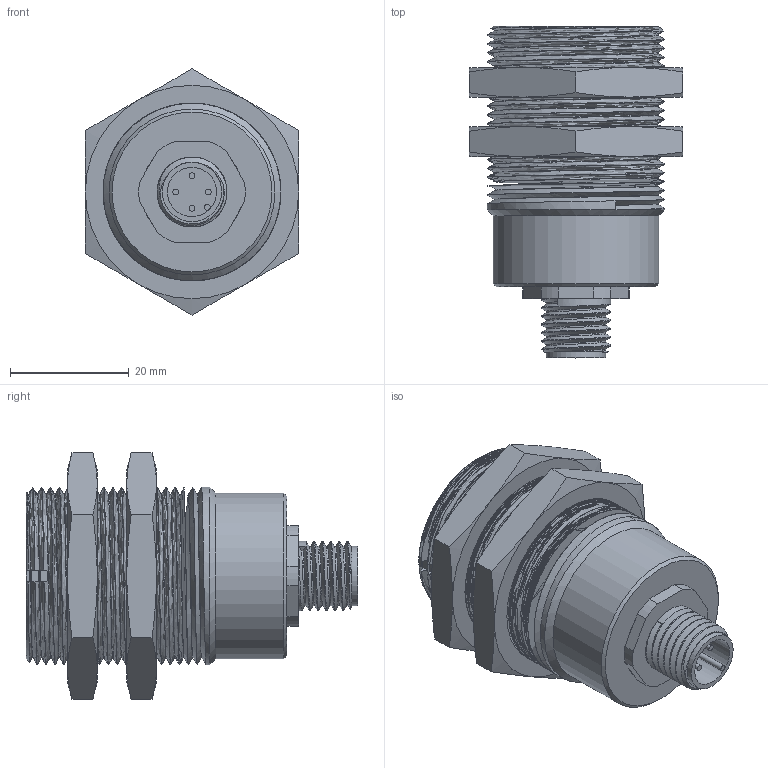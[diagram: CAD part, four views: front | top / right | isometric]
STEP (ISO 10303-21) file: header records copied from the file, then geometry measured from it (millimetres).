
FILE_DESCRIPTION(/* description */ ('Katalogmodell Elobau'),/* implementation_level */ '2;1');
FILE_NAME(/* name */ '171V62VY_D.stp',/* time_stamp */ '2014-10-17T11:50:58+02:00',/* author */ ('Elobau GmbH & Co. KG'),/* organization */ ('Elobau GmbH & Co. KG'),/* preprocessor_version */ 'ST-DEVELOPER v15',/* originating_system */ 'SIEMENS PLM Software NX 8.5',/* authorisation */ '');
FILE_SCHEMA (('AUTOMOTIVE_DESIGN { 1 0 10303 214 3 1 1 1 }'));
Length unit declared in the file: millimetre
Products named in the file (12): 850710M2_A; 850710M1_A; 8902711M2_A; 853036_C; 874619_B; 878069_B; 850714_B; 878069M_A; 871716_B; 850710_C_MODEL; 30420000_B_MODEL; 171V62VY_D
Assembly tree (12 placements, depth 3):
  171V62VY_D
    30420000_B_MODEL
      853036_C
      8902711M2_A
    871716_B  x2
    878069M_A
    850710_C_MODEL
      850710M1_A
      850710M2_A
    850714_B
    878069_B
    874619_B
Bounding box: 36 x 56 x 41.57 mm (x, y, z)
Volume: 33628.4 mm3; surface area: 11016.5 mm2
Topology: 1 solids, 1 shells, 117 faces, 305 edges, 189 vertices
Faces by surface type: plane 48, cone 34, cylinder 30, bspline 5
Full cylindrical faces by diameter (mm): 1 x4, 10 x1, 15.2 x1, 16.6 x1, 28 x1
Entity records: 13390 total; most frequent: CARTESIAN_POINT 10257, ORIENTED_EDGE 572, DIRECTION 499, EDGE_CURVE 286, AXIS2_PLACEMENT_3D 219, VERTEX_POINT 181, EDGE_LOOP 143, B_SPLINE_CURVE_WITH_KNOTS 131
